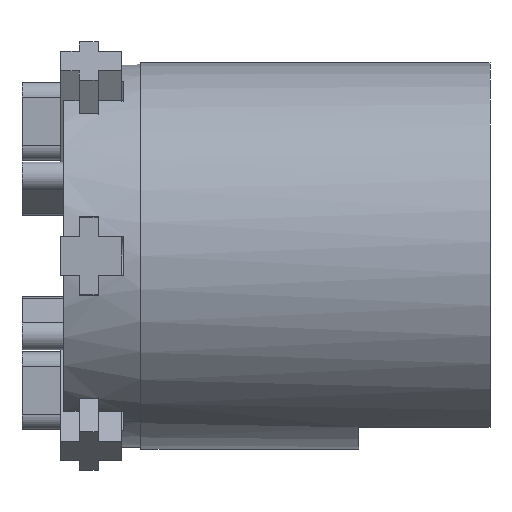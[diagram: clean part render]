
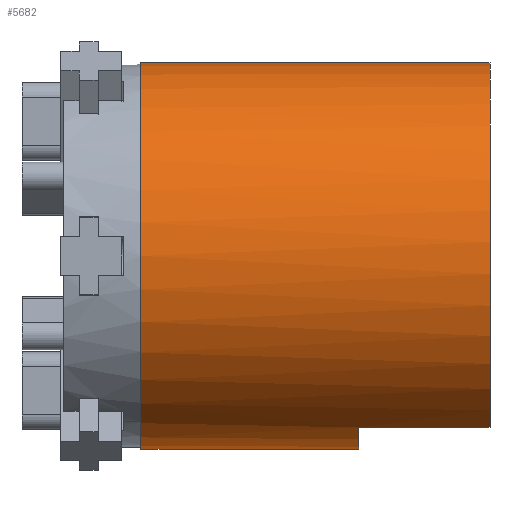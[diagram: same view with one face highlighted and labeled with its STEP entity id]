
A CAD part, left-side view. The second image highlights one B-rep face of the part: STEP entity #5682.
In plain terms, the highlighted cylindrical face has radius 31.75 mm (diameter 63.5 mm), a partial arc.
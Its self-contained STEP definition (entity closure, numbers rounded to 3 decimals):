
#60 = DIRECTION ( 'NONE',  ( 0., 0., 1. ) ) ;
#648 = VERTEX_POINT ( 'NONE', #6058 ) ;
#683 = FACE_OUTER_BOUND ( 'NONE', #3995, .T. ) ;
#688 = DIRECTION ( 'NONE',  ( 0., 0., -1. ) ) ;
#1120 = AXIS2_PLACEMENT_3D ( 'NONE', #9703, #4913, #60 ) ;
#1400 = DIRECTION ( 'NONE',  ( 0., 1., 0. ) ) ;
#1552 = CIRCLE ( 'NONE', #1120, 31.75 ) ;
#1755 = EDGE_CURVE ( 'NONE', #3386, #1782, #4691, .T. ) ;
#1782 = VERTEX_POINT ( 'NONE', #3020 ) ;
#2184 = EDGE_CURVE ( 'NONE', #8444, #9836, #9178, .T. ) ;
#2276 = VECTOR ( 'NONE', #4632, 1000. ) ;
#2304 = CARTESIAN_POINT ( 'NONE',  ( 0., 0., 31.75 ) ) ;
#2396 = CARTESIAN_POINT ( 'NONE',  ( 0., 57.4, -31.75 ) ) ;
#2784 = VECTOR ( 'NONE', #8534, 1000. ) ;
#2835 = CARTESIAN_POINT ( 'NONE',  ( 0., 57.4, 0. ) ) ;
#3020 = CARTESIAN_POINT ( 'NONE',  ( 0., 21.59, -31.75 ) ) ;
#3386 = VERTEX_POINT ( 'NONE', #8502 ) ;
#3540 = EDGE_CURVE ( 'NONE', #648, #4725, #4022, .T. ) ;
#3635 = DIRECTION ( 'NONE',  ( 0., 0., 1. ) ) ;
#3723 = ORIENTED_EDGE ( 'NONE', *, *, #5234, .T. ) ;
#3746 = AXIS2_PLACEMENT_3D ( 'NONE', #5541, #7117, #688 ) ;
#3767 = ORIENTED_EDGE ( 'NONE', *, *, #9369, .T. ) ;
#3863 = CARTESIAN_POINT ( 'NONE',  ( -14.6, 21.59, -28.194 ) ) ;
#3995 = EDGE_LOOP ( 'NONE', ( #6953, #4908, #6861, #3723, #8720, #3767 ) ) ;
#4022 = LINE ( 'NONE', #7377, #6148 ) ;
#4632 = DIRECTION ( 'NONE',  ( 0., -1., 0. ) ) ;
#4691 = LINE ( 'NONE', #2396, #2276 ) ;
#4725 = VERTEX_POINT ( 'NONE', #2304 ) ;
#4908 = ORIENTED_EDGE ( 'NONE', *, *, #6294, .F. ) ;
#4913 = DIRECTION ( 'NONE',  ( 0., 1., 0. ) ) ;
#4925 = CARTESIAN_POINT ( 'NONE',  ( -14.6, 0., -28.194 ) ) ;
#5233 = AXIS2_PLACEMENT_3D ( 'NONE', #6239, #1400, #7035 ) ;
#5234 = EDGE_CURVE ( 'NONE', #1782, #9836, #5866, .T. ) ;
#5541 = CARTESIAN_POINT ( 'NONE',  ( 0., 57.4, 0. ) ) ;
#5682 = ADVANCED_FACE ( 'NONE', ( #683 ), #6356, .T. ) ;
#5866 = CIRCLE ( 'NONE', #5233, 31.75 ) ;
#6058 = CARTESIAN_POINT ( 'NONE',  ( 0., 57.4, 31.75 ) ) ;
#6148 = VECTOR ( 'NONE', #8985, 1000. ) ;
#6239 = CARTESIAN_POINT ( 'NONE',  ( 0., 21.59, 0. ) ) ;
#6294 = EDGE_CURVE ( 'NONE', #3386, #648, #7743, .T. ) ;
#6356 = CYLINDRICAL_SURFACE ( 'NONE', #3746, 31.75 ) ;
#6550 = AXIS2_PLACEMENT_3D ( 'NONE', #2835, #8442, #3635 ) ;
#6861 = ORIENTED_EDGE ( 'NONE', *, *, #1755, .T. ) ;
#6953 = ORIENTED_EDGE ( 'NONE', *, *, #3540, .F. ) ;
#7035 = DIRECTION ( 'NONE',  ( 0., 0., 1. ) ) ;
#7117 = DIRECTION ( 'NONE',  ( 0., -1., 0. ) ) ;
#7377 = CARTESIAN_POINT ( 'NONE',  ( 0., 57.4, 31.75 ) ) ;
#7737 = CARTESIAN_POINT ( 'NONE',  ( -14.6, 57.4, -28.194 ) ) ;
#7743 = CIRCLE ( 'NONE', #6550, 31.75 ) ;
#8442 = DIRECTION ( 'NONE',  ( 0., 1., 0. ) ) ;
#8444 = VERTEX_POINT ( 'NONE', #4925 ) ;
#8502 = CARTESIAN_POINT ( 'NONE',  ( 0., 57.4, -31.75 ) ) ;
#8534 = DIRECTION ( 'NONE',  ( 0., 1., 0. ) ) ;
#8720 = ORIENTED_EDGE ( 'NONE', *, *, #2184, .F. ) ;
#8985 = DIRECTION ( 'NONE',  ( 0., -1., 0. ) ) ;
#9178 = LINE ( 'NONE', #7737, #2784 ) ;
#9369 = EDGE_CURVE ( 'NONE', #8444, #4725, #1552, .T. ) ;
#9703 = CARTESIAN_POINT ( 'NONE',  ( 0., 0., 0. ) ) ;
#9836 = VERTEX_POINT ( 'NONE', #3863 ) ;
